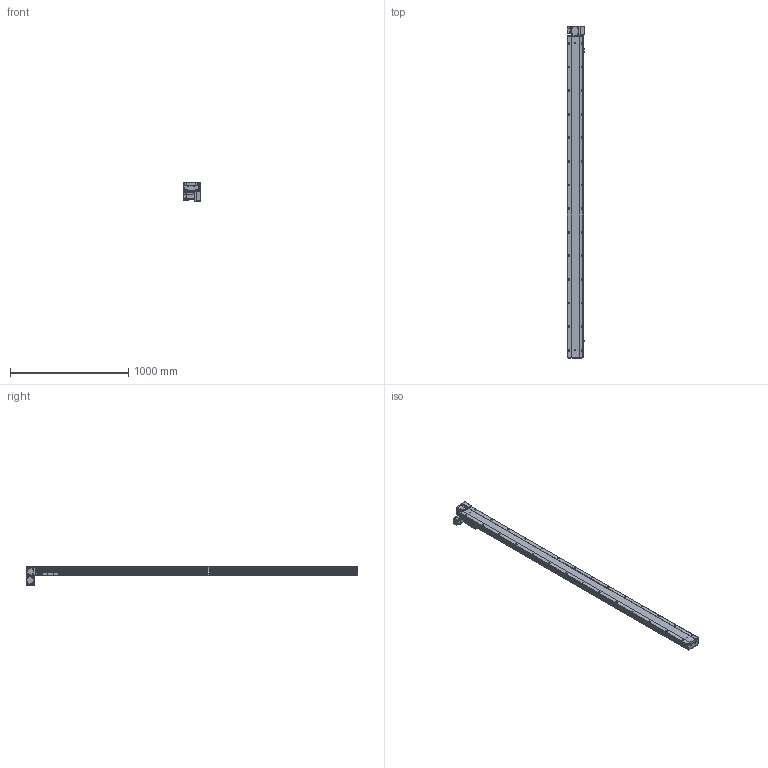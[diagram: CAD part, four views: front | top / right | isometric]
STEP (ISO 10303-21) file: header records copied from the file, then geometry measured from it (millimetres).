
FILE_DESCRIPTION (( 'STEP AP203' ), '1' );
FILE_NAME ('245.STEP', '2022-07-22T01:44:33', ( '' ), ( '' ), 'SwSTEP 2.0', 'SolidWorks 2016', '' );
FILE_SCHEMA (( 'CONFIG_CONTROL_DESIGN' ));
Length unit declared in the file: millimetre
Products named in the file (10): BTB14-L-菁釱_XD; BTB14-L-23; BTB14-L-24; 245; BTB14-L-01; BTB14-L-02; BTB14-L-HZ; BTB14-L-06; BTB14-L-M40; BTB14-L-04
Assembly tree (12 placements, depth 2):
  245
    BTB14-L-菁釱_XD
    BTB14-L-01
    BTB14-L-02
    BTB14-L-04  x3
    BTB14-L-06
    BTB14-L-23  x2
    BTB14-L-24
    BTB14-L-HZ
    BTB14-L-M40
Bounding box: 148.7 x 2812.5 x 156.7 mm (x, y, z)
Volume: 12121387.3 mm3; surface area: 2495842.1 mm2
Topology: 22 solids, 22 shells, 1702 faces, 4501 edges, 2854 vertices
Faces by surface type: plane 937, cylinder 520, cone 156, bspline 77, torus 12
Entity records: 45402 total; most frequent: CARTESIAN_POINT 11005, DIRECTION 6896, ORIENTED_EDGE 6860, EDGE_CURVE 3430, AXIS2_PLACEMENT_3D 2303, VECTOR 2290, LINE 2290, VERTEX_POINT 2232
